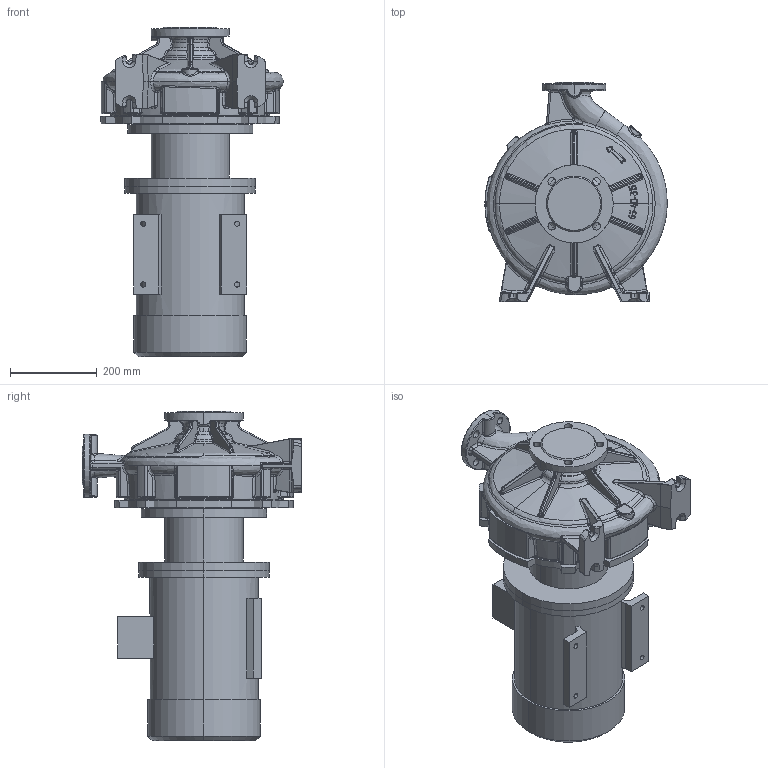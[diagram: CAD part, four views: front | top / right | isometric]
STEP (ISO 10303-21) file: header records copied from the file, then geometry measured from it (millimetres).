
FILE_DESCRIPTION (( 'STEP AP203' ), '1' );
FILE_NAME ('KRM 65-40-315-4-5,5.STEP', '2026-09-21T07:43:38', ( '' ), ( '' ), 'SwSTEP 2.0', 'SolidWorks 2016', '' );
FILE_SCHEMA (( 'CONFIG_CONTROL_DESIGN' ));
Length unit declared in the file: millimetre
Products named in the file (1): KRM 65-40-315-4-5,5
Bounding box: 419.8 x 505 x 757.8 mm (x, y, z)
Volume: 46122608.2 mm3; surface area: 1863677.3 mm2
Topology: 12 solids, 12 shells, 1512 faces, 3768 edges, 2243 vertices
Faces by surface type: bspline 628, cylinder 327, plane 293, torus 147, cone 85, sphere 32
Entity records: 92327 total; most frequent: CARTESIAN_POINT 61401, ORIENTED_EDGE 7396, DIRECTION 5197, EDGE_CURVE 3698, VERTEX_POINT 2239, AXIS2_PLACEMENT_3D 2126, EDGE_LOOP 1565, ADVANCED_FACE 1512
